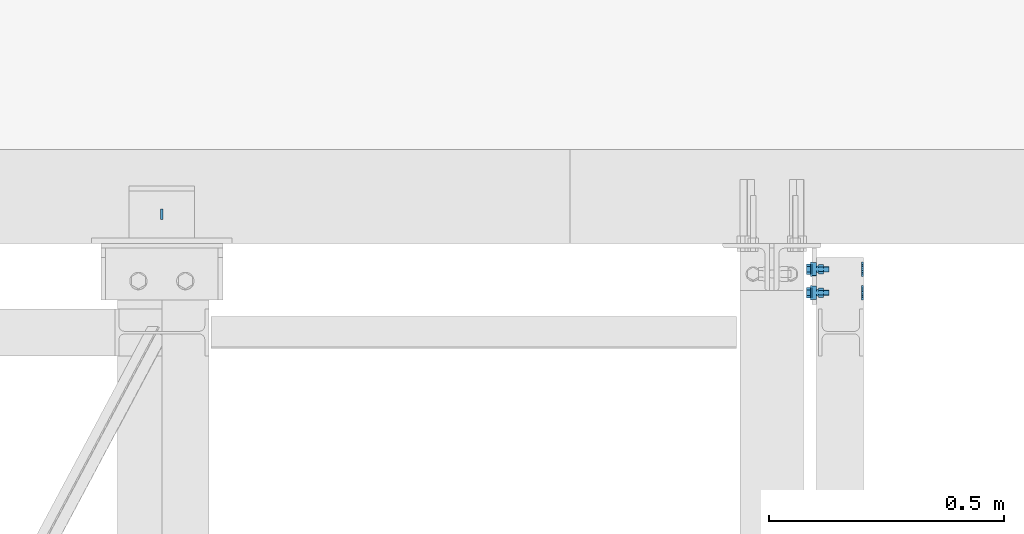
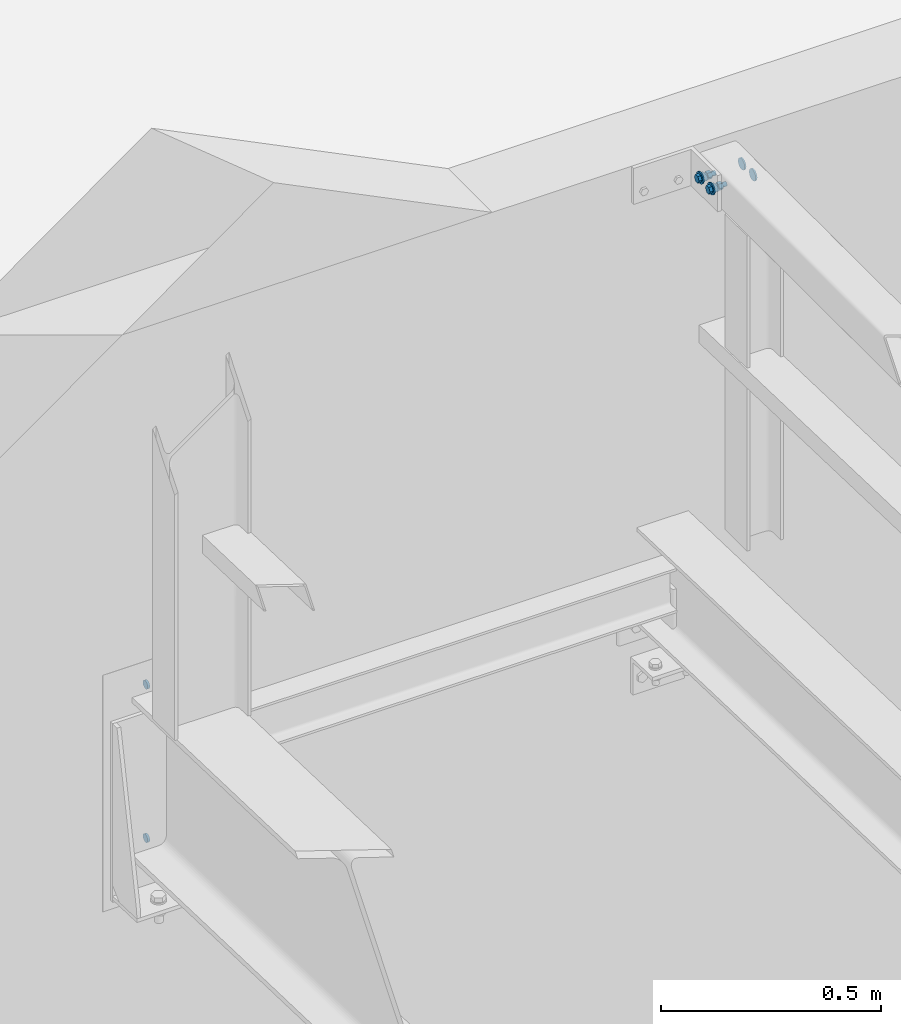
# One storey, part 113 of 123: 4 mechanical fasteners, 3 elements without a shape of their own.
"""IFC2X3 building model written with IfcOpenShell, lengths in millimetres."""

from ifc_helpers import new_model, si_unit, frame, frame_2d, origin_with_axes, origin_2d_with_axis, place, context, subcontext, project, spatial, polyline, circle_curve, parameter, trimmed, segment, composite_curve, circle, outline, extrude, source, transform, mapped, material, type_object, element, aggregate, save


model = new_model("IFC2X3")

# Units and contexts
model_context = context("Model", 3, precision=1e-05, world=origin_with_axes())
body_context = subcontext(model_context, "Body", "Model", "MODEL_VIEW")
ifc_project = project(units=[si_unit("LENGTHUNIT", "METRE", prefix="MILLI"), si_unit("AREAUNIT", "SQUARE_METRE"), si_unit("VOLUMEUNIT", "CUBIC_METRE"), si_unit("MASSUNIT", "GRAM", prefix="KILO"), si_unit("TIMEUNIT", "SECOND"), si_unit("PLANEANGLEUNIT", "RADIAN"), si_unit("SOLIDANGLEUNIT", "STERADIAN"), si_unit("THERMODYNAMICTEMPERATUREUNIT", "DEGREE_CELSIUS"), si_unit("LUMINOUSINTENSITYUNIT", "LUMEN")], contexts=[model_context])

# Site, building, storey
site_placement = place(None, origin_with_axes())
site = spatial("IfcSite", under=ifc_project, at=site_placement, Name="Undefined", CompositionType="ELEMENT")
building_placement = place(site_placement, origin_with_axes())
building = spatial("IfcBuilding", under=site, at=building_placement, Name="Undefined", CompositionType="ELEMENT")
storey_placement = place(building_placement, origin_with_axes())
storey = spatial("IfcBuildingStorey", under=building, at=storey_placement, Name="Undefined", CompositionType="ELEMENT", Elevation=0.0)

# Assembly, mechanical fasteners
assembly_1_placement = place(storey_placement, origin_with_axes())
assembly_1 = element("IfcElementAssembly", 1, at=assembly_1_placement, inside=storey, Name="Steel Assembly", AssemblyPlace="NOTDEFINED", PredefinedType="RIGID_FRAME")
ifc_material_1 = material(Name="6.8")
discrete_accessory_type = type_object("IfcDiscreteAccessoryType", Name="Bolt assembly")
shared_shape_1 = source(origin_with_axes(), body_context, "Body", "SweptSolid", [
    extrude(circle(Radius=11.0, at=origin_2d_with_axis()), frame((0.0, -2.75000000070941, 0.0), z_axis=(0.0, 1.0, 0.0), x_axis=(1.0, 0.0, 0.0)), (0.0, 0.0, 1.0), 5.6),
])
mechanical_fastener_1_placement = place(assembly_1_placement, frame((38330.0000000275, 15452.0000002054, 7084.99830350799), z_axis=(0.0, 0.0, 1.0), x_axis=(0.0, -1.0, 0.0)))
mechanical_fastener_1 = element("IfcMechanicalFastener", 2, at=mechanical_fastener_1_placement, type_object=discrete_accessory_type, material=ifc_material_1, Name="Bolt assembly", NominalDiameter=20.0, NominalLength=5.5, context=body_context, shape_type="MappedRepresentation", body=[
    mapped(shared_shape_1, transform((0.0, 0.0, 0.0))),
])
mechanical_fastener_2_placement = place(assembly_1_placement, frame((38330.0000000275, 15452.0000002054, 7509.99830350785), z_axis=(0.0, 0.0, 1.0), x_axis=(0.0, -1.0, 0.0)))
mechanical_fastener_2 = element("IfcMechanicalFastener", 3, at=mechanical_fastener_2_placement, type_object=discrete_accessory_type, material=ifc_material_1, Name="Bolt assembly", NominalDiameter=20.0, NominalLength=5.5, context=body_context, shape_type="MappedRepresentation", body=[
    mapped(shared_shape_1, transform((0.0, 0.0, 0.0))),
])
aggregate(assembly_1, [mechanical_fastener_1, mechanical_fastener_2])

# Assembly, mechanical fastener
assembly_2_placement = place(storey_placement, origin_with_axes())
assembly_2 = element("IfcElementAssembly", 4, at=assembly_2_placement, inside=storey, Name="Steel Assembly", AssemblyPlace="NOTDEFINED", PredefinedType="RIGID_FRAME")
shared_shape_2 = source(origin_with_axes(), body_context, "Body", "SweptSolid", [
    extrude(circle(Radius=15.0, at=origin_2d_with_axis()), frame((0.0, -4.00000022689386, 0.0), z_axis=(0.0, 1.0, 0.0), x_axis=(1.0, 0.0, 0.0)), (0.0, 0.0, 1.0), 4.1),
])
mechanical_fastener_3_placement = place(assembly_2_placement, frame((39825.0, 15285.0, 8500.0), z_axis=(0.0, 0.0, -1.0), x_axis=(0.0, 1.0, 0.0)))
mechanical_fastener_3 = element("IfcMechanicalFastener", 5, at=mechanical_fastener_3_placement, type_object=discrete_accessory_type, material=ifc_material_1, Name="Bolt assembly", NominalDiameter=30.0, NominalLength=4.0, context=body_context, shape_type="MappedRepresentation", body=[
    mapped(shared_shape_2, transform((0.0, 0.0, 0.0))),
    mapped(shared_shape_2, transform((50.0, 0.0, 0.0))),
])
aggregate(assembly_2, [mechanical_fastener_3])

assembly_3_placement = place(storey_placement, origin_with_axes())
assembly_3 = element("IfcElementAssembly", 6, at=assembly_3_placement, inside=storey, Name="Steel Assembly", AssemblyPlace="NOTDEFINED", PredefinedType="RIGID_FRAME")
ifc_material_2 = material(Name="8.8-SB-Z")
shared_shape_3 = source(origin_with_axes(), body_context, "Body", "SweptSolid", [
    extrude(circle(Radius=7.0, at=origin_2d_with_axis()), frame((0.0, -0.100000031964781, 0.0), z_axis=(0.0, 1.0, 0.0), x_axis=(1.0, 0.0, 0.0)), (0.0, 0.0, 1.0), 4.1),
    extrude(outline(composite_curve([segment(polyline([(-7.0, 7.0), (7.0, 7.0)]), True, "CONTINUOUS"), segment(trimmed(circle_curve(frame_2d((7.0, 0.0), x_axis=(0.0, 1.0)), 7.0), [parameter(0.0)], [parameter(3.14159265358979)], False, "PARAMETER"), True, "CONTINUOUS"), segment(polyline([(7.0, -7.0), (-7.0, -7.0)]), True, "CONTINUOUS"), segment(trimmed(circle_curve(frame_2d((-7.0, 0.0), x_axis=(0.0, -1.0)), 7.0), [parameter(0.0)], [parameter(3.14159265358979)], False, "PARAMETER"), True, "DISCONTINUOUS")], self_intersect=False)), frame((0.0, -9.9, 0.0), z_axis=(0.0, 1.0, 0.0), x_axis=(1.0, 0.0, 0.0)), (0.0, 0.0, 1.0), 10.0),
    extrude(outline(polyline([(10.96965511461, 0.0), (5.484827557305, 9.50000000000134), (-5.484827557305, 9.50000000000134), (-10.96965511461, 0.0), (-5.484827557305, -9.50000000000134), (5.484827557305, -9.50000000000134), (10.96965511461, 0.0)])), frame((0.0, -21.2000007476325, 0.0), z_axis=(0.0, 1.0, 0.0), x_axis=(1.0, 0.0, 0.0)), (0.0, 0.0, 1.0), 8.0),
    extrude(circle(Radius=6.0, at=origin_2d_with_axis()), frame((0.0, -13.2000000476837, 0.0), z_axis=(0.0, 1.0, 0.0), x_axis=(1.0, 0.0, 0.0)), (0.0, 0.0, 1.0), 40.0),
    extrude(circle(Radius=15.5, at=origin_2d_with_axis()), frame((0.0, -13.2000000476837, 0.0), z_axis=(0.0, 1.0, 0.0), x_axis=(1.0, 0.0, 0.0)), (0.0, 0.0, 1.0), 3.2),
    extrude(outline(polyline([(10.39230484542, 0.0), (5.19615242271, 9.00000000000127), (-5.19615242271, 9.00000000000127), (-10.39230484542, 0.0), (-5.19615242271, -9.00000000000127), (5.19615242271, -9.00000000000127), (10.39230484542, 0.0)])), frame((0.0, 3.99999977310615, 0.0), z_axis=(0.0, 1.0, 0.0), x_axis=(1.0, 0.0, 0.0)), (0.0, 0.0, 1.0), 10.8),
])
mechanical_fastener_4_placement = place(assembly_3_placement, frame((39725.0, 15285.0, 8500.0), z_axis=(0.0, 0.0, -1.0), x_axis=(0.0, 1.0, 0.0)))
mechanical_fastener_4 = element("IfcMechanicalFastener", 7, at=mechanical_fastener_4_placement, type_object=discrete_accessory_type, material=ifc_material_2, Name="Bolt assembly", NominalDiameter=12.0, NominalLength=40.0, context=body_context, shape_type="MappedRepresentation", body=[
    mapped(shared_shape_3, transform((0.0, 0.0, 0.0))),
    mapped(shared_shape_3, transform((50.0, 0.0, 0.0))),
])
aggregate(assembly_3, [mechanical_fastener_4])

save(model, "model.ifc")
